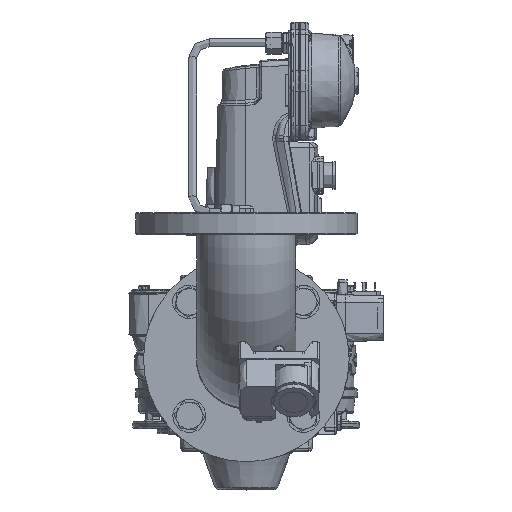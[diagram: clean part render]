
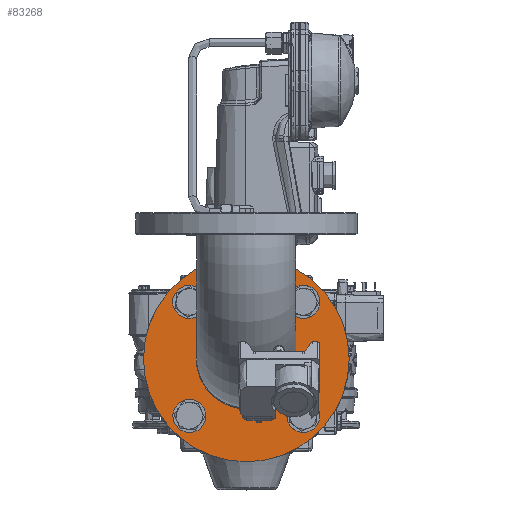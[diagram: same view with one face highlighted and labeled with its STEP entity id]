
A CAD part, top view. The second image highlights one B-rep face of the part: STEP entity #83268.
In plain terms, the highlighted planar face has unit normal (0, 0, 1).
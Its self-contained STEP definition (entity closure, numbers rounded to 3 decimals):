
#1655 = VERTEX_POINT ( 'NONE', #49160 ) ;
#15195 = CARTESIAN_POINT ( 'NONE',  ( 51.265, 25.24, -829.475 ) ) ;
#21164 = CIRCLE ( 'NONE', #224206, 9. ) ;
#21703 = EDGE_LOOP ( 'NONE', ( #161405 ) ) ;
#22187 = EDGE_CURVE ( 'NONE', #274575, #274575, #177041, .T. ) ;
#23400 = FACE_BOUND ( 'NONE', #103747, .T. ) ;
#25094 = VERTEX_POINT ( 'NONE', #60571 ) ;
#26369 = ORIENTED_EDGE ( 'NONE', *, *, #236811, .F. ) ;
#30372 = FACE_BOUND ( 'NONE', #235310, .T. ) ;
#31285 = CARTESIAN_POINT ( 'NONE',  ( -51.265, -86.29, -829.475 ) ) ;
#35105 = DIRECTION ( 'NONE',  ( 0., 1., 0. ) ) ;
#39861 = CARTESIAN_POINT ( 'NONE',  ( -51.265, 16.24, -829.475 ) ) ;
#49160 = CARTESIAN_POINT ( 'NONE',  ( 0., 57.475, -829.475 ) ) ;
#49329 = DIRECTION ( 'NONE',  ( 0., 1., 0. ) ) ;
#57675 = DIRECTION ( 'NONE',  ( 0., 0., -1. ) ) ;
#60571 = CARTESIAN_POINT ( 'NONE',  ( -51.265, 25.24, -829.475 ) ) ;
#66227 = DIRECTION ( 'NONE',  ( 0., 1., 0. ) ) ;
#70020 = DIRECTION ( 'NONE',  ( 0., 0., 1. ) ) ;
#77893 = DIRECTION ( 'NONE',  ( 0., 1., 0. ) ) ;
#83268 = ADVANCED_FACE ( 'NONE', ( #112893, #223442, #23400, #30372, #147520, #185494 ), #167516, .F. ) ;
#86807 = EDGE_CURVE ( 'NONE', #198199, #198199, #284857, .T. ) ;
#91204 = CARTESIAN_POINT ( 'NONE',  ( 51.265, -86.29, -829.475 ) ) ;
#103747 = EDGE_LOOP ( 'NONE', ( #118149 ) ) ;
#112893 = FACE_BOUND ( 'NONE', #225293, .T. ) ;
#113317 = EDGE_CURVE ( 'NONE', #1655, #1655, #160477, .T. ) ;
#118149 = ORIENTED_EDGE ( 'NONE', *, *, #137940, .F. ) ;
#119386 = CARTESIAN_POINT ( 'NONE',  ( -51.265, -77.29, -829.475 ) ) ;
#130157 = DIRECTION ( 'NONE',  ( 0., -1., 0. ) ) ;
#137940 = EDGE_CURVE ( 'NONE', #173831, #173831, #21164, .T. ) ;
#142551 = CARTESIAN_POINT ( 'NONE',  ( 0., -80.025, -829.475 ) ) ;
#143685 = AXIS2_PLACEMENT_3D ( 'NONE', #199779, #159227, #49329 ) ;
#147520 = FACE_BOUND ( 'NONE', #21703, .T. ) ;
#151474 = DIRECTION ( 'NONE',  ( 0., 0., 1. ) ) ;
#151681 = AXIS2_PLACEMENT_3D ( 'NONE', #91204, #70020, #66227 ) ;
#159227 = DIRECTION ( 'NONE',  ( 0., 0., 1. ) ) ;
#160477 = CIRCLE ( 'NONE', #143685, 92.5 ) ;
#161405 = ORIENTED_EDGE ( 'NONE', *, *, #86807, .F. ) ;
#162945 = AXIS2_PLACEMENT_3D ( 'NONE', #183486, #225018, #204725 ) ;
#167029 = DIRECTION ( 'NONE',  ( 0., 0., 1. ) ) ;
#167516 = PLANE ( 'NONE',  #260224 ) ;
#170735 = CARTESIAN_POINT ( 'NONE',  ( 0., -35.025, -829.475 ) ) ;
#173115 = EDGE_CURVE ( 'NONE', #263537, #263537, #253404, .T. ) ;
#173831 = VERTEX_POINT ( 'NONE', #119386 ) ;
#177041 = CIRCLE ( 'NONE', #151681, 9. ) ;
#177621 = CARTESIAN_POINT ( 'NONE',  ( 51.265, -77.29, -829.475 ) ) ;
#183486 = CARTESIAN_POINT ( 'NONE',  ( 51.265, 16.24, -829.475 ) ) ;
#185494 = FACE_OUTER_BOUND ( 'NONE', #188034, .T. ) ;
#188034 = EDGE_LOOP ( 'NONE', ( #259708 ) ) ;
#194020 = DIRECTION ( 'NONE',  ( 0., 1., 0. ) ) ;
#198199 = VERTEX_POINT ( 'NONE', #15195 ) ;
#199779 = CARTESIAN_POINT ( 'NONE',  ( 0., -35.025, -829.475 ) ) ;
#200488 = CIRCLE ( 'NONE', #236721, 9. ) ;
#204725 = DIRECTION ( 'NONE',  ( 0., 1., 0. ) ) ;
#221606 = ORIENTED_EDGE ( 'NONE', *, *, #22187, .F. ) ;
#223442 = FACE_BOUND ( 'NONE', #233528, .T. ) ;
#224206 = AXIS2_PLACEMENT_3D ( 'NONE', #31285, #167029, #35105 ) ;
#225018 = DIRECTION ( 'NONE',  ( 0., 0., 1. ) ) ;
#225293 = EDGE_LOOP ( 'NONE', ( #258547 ) ) ;
#228895 = AXIS2_PLACEMENT_3D ( 'NONE', #170735, #258589, #130157 ) ;
#233528 = EDGE_LOOP ( 'NONE', ( #26369 ) ) ;
#235310 = EDGE_LOOP ( 'NONE', ( #221606 ) ) ;
#236721 = AXIS2_PLACEMENT_3D ( 'NONE', #39861, #151474, #194020 ) ;
#236811 = EDGE_CURVE ( 'NONE', #25094, #25094, #200488, .T. ) ;
#253404 = CIRCLE ( 'NONE', #228895, 45. ) ;
#256312 = CARTESIAN_POINT ( 'NONE',  ( 0., -35.025, -829.475 ) ) ;
#258547 = ORIENTED_EDGE ( 'NONE', *, *, #173115, .F. ) ;
#258589 = DIRECTION ( 'NONE',  ( 0., 0., 1. ) ) ;
#259708 = ORIENTED_EDGE ( 'NONE', *, *, #113317, .T. ) ;
#260224 = AXIS2_PLACEMENT_3D ( 'NONE', #256312, #57675, #77893 ) ;
#263537 = VERTEX_POINT ( 'NONE', #142551 ) ;
#274575 = VERTEX_POINT ( 'NONE', #177621 ) ;
#284857 = CIRCLE ( 'NONE', #162945, 9. ) ;
